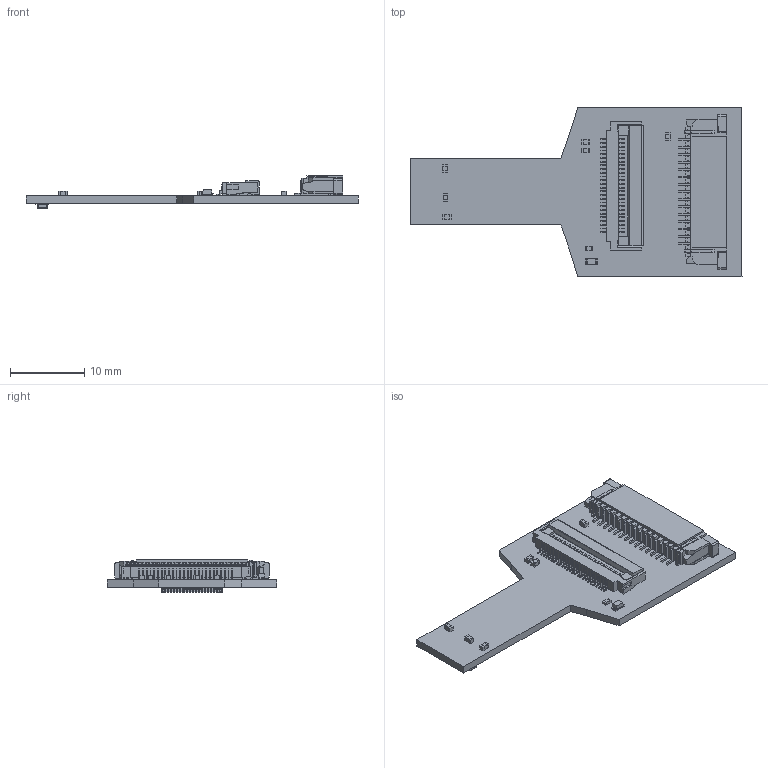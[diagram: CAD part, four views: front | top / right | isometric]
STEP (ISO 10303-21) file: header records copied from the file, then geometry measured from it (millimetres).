
FILE_DESCRIPTION(('Open CASCADE Model'),'2;1');
FILE_NAME('Open CASCADE Shape Model','2024-02-28T09:26:39',('Author'),( 'Open CASCADE'),'Open CASCADE STEP processor 7.5','Open CASCADE 7.5' ,'Unknown');
FILE_SCHEMA(('AUTOMOTIVE_DESIGN { 1 0 10303 214 1 1 1 1 }'));
Length unit declared in the file: millimetre
Products named in the file (33): PCB; Board; Open CASCADE STEP translator 7.5 1.1.1; D1; LED0603_GRN; R1; 6170013344; Extruded; 6170013184; J2; BM20B(0.8)-34DP-0.4V(51)--3DModel-STEP-269445; J3; SFW15R-2STE1LF--3DModel-STEP-56544; SFW15R-2STE1LF--3DModel-STEP-533217; J1; TF31-26S-0.5SH_800_; C1; 6170014784; 6170017424; C2; 6170017664; C5; C4; C3; C6
Assembly tree (48 placements, depth 4):
  PCB
    Board
      Open CASCADE STEP translator 7.5 1.1.1
    D1
      LED0603_GRN
      LED0603_GRN
      LED0603_GRN
      LED0603_GRN
      LED0603_GRN
    R1
      6170013344  x2
        Extruded
      6170013184
        Extruded
    J2
      BM20B(0.8)-34DP-0.4V(51)--3DModel-STEP-269445
    J3
      SFW15R-2STE1LF--3DModel-STEP-56544
        SFW15R-2STE1LF--3DModel-STEP-533217
    J1
      TF31-26S-0.5SH_800_
    C1
      6170014784  x2
        Extruded
      6170017424
        Extruded
    C2
      6170017664  x2
        Extruded
      6170017424
        Extruded
    C5
      6170017424
        Extruded
      6170017664  x2
        Extruded
    C4
      6170017424
        Extruded
      6170017664  x2
        Extruded
    C3
      6170014784  x2
        Extruded
      6170017424
        Extruded
    C6
      6170017424
        Extruded
      6170014784  x2
        Extruded
Bounding box: 44.7 x 22.84 x 4.41 mm (x, y, z)
Volume: 1110.6 mm3; surface area: 2821.5 mm2
Topology: 123 solids, 123 shells, 3659 faces, 10400 edges, 6912 vertices
Faces by surface type: plane 3081, cylinder 578
Entity records: 117845 total; most frequent: CARTESIAN_POINT 23565, ORIENTED_EDGE 20416, DIRECTION 17619, EDGE_CURVE 10208, LINE 8343, VECTOR 8343, VERTEX_POINT 6784, AXIS2_PLACEMENT_3D 4638
